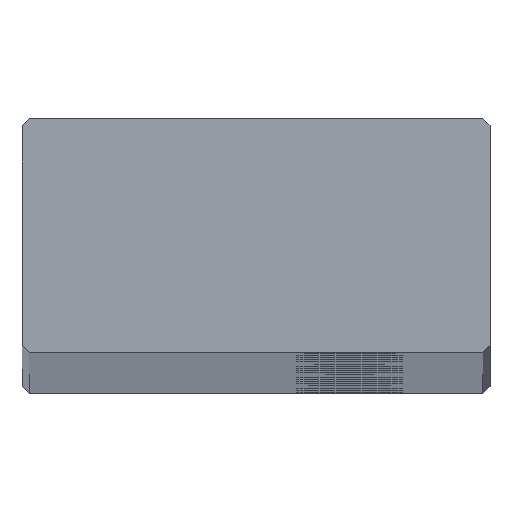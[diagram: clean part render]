
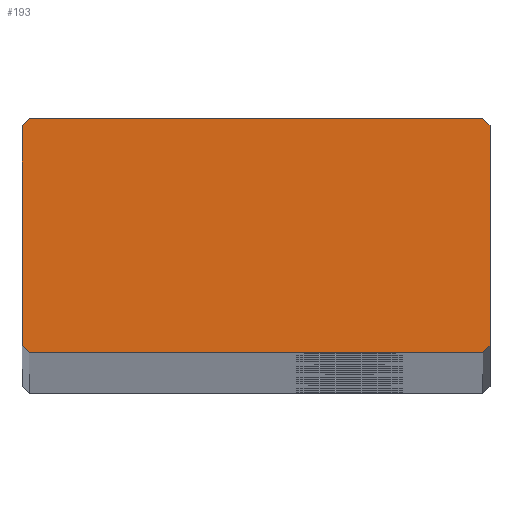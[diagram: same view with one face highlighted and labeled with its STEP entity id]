
A CAD part, top view. The second image highlights one B-rep face of the part: STEP entity #193.
In plain terms, the highlighted planar face has unit normal (0, 0, 1).
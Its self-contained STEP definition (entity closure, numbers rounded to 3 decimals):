
#193=ADVANCED_FACE('',(#498),#499,.T.);
#498=FACE_OUTER_BOUND('',#804,.T.);
#499=PLANE('',#805);
#804=EDGE_LOOP('',(#1722,#1723,#1724,#1725,#1726,#1727,#1728,#1729));
#805=AXIS2_PLACEMENT_3D('',#1730,#1731,#1732);
#1722=ORIENTED_EDGE('',*,*,#2008,.F.);
#1723=ORIENTED_EDGE('',*,*,#2030,.F.);
#1724=ORIENTED_EDGE('',*,*,#2027,.F.);
#1725=ORIENTED_EDGE('',*,*,#2024,.F.);
#1726=ORIENTED_EDGE('',*,*,#2021,.F.);
#1727=ORIENTED_EDGE('',*,*,#2018,.F.);
#1728=ORIENTED_EDGE('',*,*,#2015,.F.);
#1729=ORIENTED_EDGE('',*,*,#2012,.F.);
#1730=CARTESIAN_POINT('',(0.,10.0,1976.0));
#1731=DIRECTION('',(0.0,0.0,1.0));
#1732=DIRECTION('',(1.0,0.0,0.0));
#2008=EDGE_CURVE('',#2472,#2473,#2474,.T.);
#2012=EDGE_CURVE('',#2473,#2480,#2481,.T.);
#2015=EDGE_CURVE('',#2480,#2485,#2486,.T.);
#2018=EDGE_CURVE('',#2485,#2490,#2491,.T.);
#2021=EDGE_CURVE('',#2490,#2495,#2496,.T.);
#2024=EDGE_CURVE('',#2495,#2500,#2501,.T.);
#2027=EDGE_CURVE('',#2500,#2505,#2506,.T.);
#2030=EDGE_CURVE('',#2505,#2472,#2510,.T.);
#2472=VERTEX_POINT('',#3040);
#2473=VERTEX_POINT('',#3041);
#2474=LINE('',#3042,#3043);
#2480=VERTEX_POINT('',#3052);
#2481=LINE('',#3053,#3054);
#2485=VERTEX_POINT('',#3060);
#2486=LINE('',#3061,#3062);
#2490=VERTEX_POINT('',#3068);
#2491=LINE('',#3069,#3070);
#2495=VERTEX_POINT('',#3076);
#2496=LINE('',#3077,#3078);
#2500=VERTEX_POINT('',#3084);
#2501=LINE('',#3085,#3086);
#2505=VERTEX_POINT('',#3092);
#2506=LINE('',#3093,#3094);
#2510=LINE('',#3100,#3101);
#3040=CARTESIAN_POINT('',(-19.4,0.,1976.0));
#3041=CARTESIAN_POINT('',(-20.0,0.6,1976.0));
#3042=CARTESIAN_POINT('',(-19.4,0.,1976.0));
#3043=VECTOR('',#3720,1.0);
#3052=CARTESIAN_POINT('',(-20.0,19.4,1976.0));
#3053=CARTESIAN_POINT('',(-20.0,0.6,1976.0));
#3054=VECTOR('',#3724,1.0);
#3060=CARTESIAN_POINT('',(-19.4,20.0,1976.0));
#3061=CARTESIAN_POINT('',(-20.0,19.4,1976.0));
#3062=VECTOR('',#3727,1.0);
#3068=CARTESIAN_POINT('',(19.4,20.0,1976.0));
#3069=CARTESIAN_POINT('',(-19.4,20.0,1976.0));
#3070=VECTOR('',#3730,1.0);
#3076=CARTESIAN_POINT('',(20.0,19.4,1976.0));
#3077=CARTESIAN_POINT('',(19.4,20.0,1976.0));
#3078=VECTOR('',#3733,1.0);
#3084=CARTESIAN_POINT('',(20.0,0.6,1976.0));
#3085=CARTESIAN_POINT('',(20.0,0.6,1976.0));
#3086=VECTOR('',#3736,1.0);
#3092=CARTESIAN_POINT('',(19.4,0.,1976.0));
#3093=CARTESIAN_POINT('',(19.4,0.,1976.0));
#3094=VECTOR('',#3739,1.0);
#3100=CARTESIAN_POINT('',(-19.4,0.,1976.0));
#3101=VECTOR('',#3742,1.0);
#3720=DIRECTION('',(-0.707,0.707,0.0));
#3724=DIRECTION('',(0.0,1.0,0.0));
#3727=DIRECTION('',(0.707,0.707,0.0));
#3730=DIRECTION('',(1.0,0.0,0.0));
#3733=DIRECTION('',(0.707,-0.707,0.0));
#3736=DIRECTION('',(-0.0,-1.0,-0.0));
#3739=DIRECTION('',(-0.707,-0.707,-0.0));
#3742=DIRECTION('',(-1.0,-0.0,-0.0));
